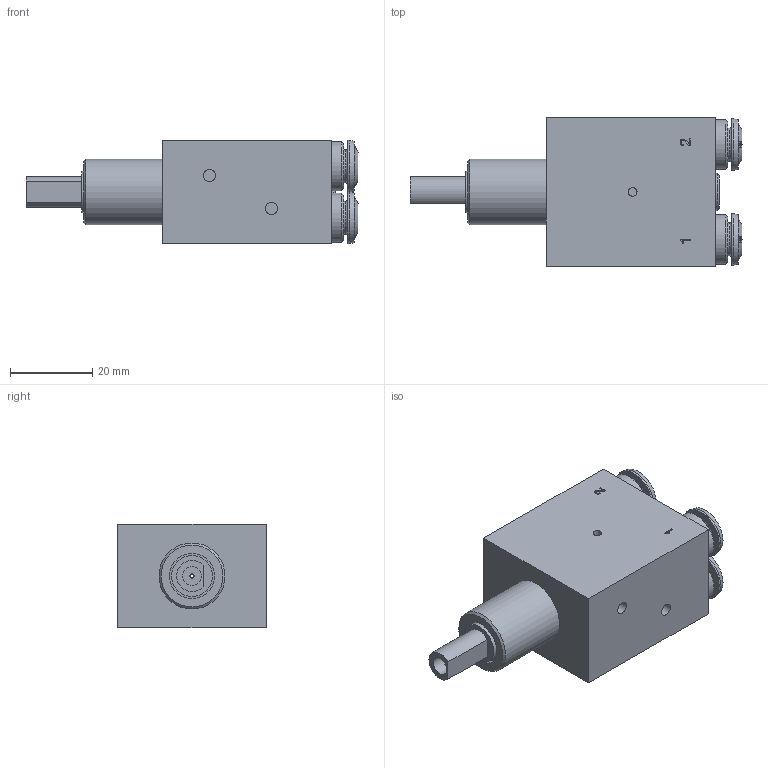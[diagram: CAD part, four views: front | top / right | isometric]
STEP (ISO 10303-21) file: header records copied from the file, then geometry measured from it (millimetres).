
FILE_DESCRIPTION( ( 'Unknown' ), '1' );
FILE_NAME( 'Q:/Solid Edge ST4/weblap modellek/stp/második adag/BHP 320 462.stp', 'Unknown', ( 'Unknown' ), ( 'Unknown' ), 'PSStep 14.0', 'Unknown', ' ' );
FILE_SCHEMA( ( 'AUTOMOTIVE_DESIGN { 1 0 10303 214 1 1 1 1 }' ) );
Length unit declared in the file: millimetre
Products named in the file (10): Assem1; -oa0
Assembly tree (9 placements, depth 2):
  Assem1
    -oa0
    -oa0
    -oa0
    -oa0
    -oa0
    -oa0
    -oa0
    -oa0
    -oa0
Bounding box: 80.5 x 36 x 25 mm (x, y, z)
Surface area: 10517.5 mm2 (no closed solid volume)
Topology: 0 solids, 245 shells, 245 faces, 1246 edges, 1191 vertices
Faces by surface type: bspline 108, plane 56, cone 41, cylinder 26, extrusion 8, torus 6
Full cylindrical faces by diameter (mm): 1 x1, 2.1 x1, 3 x3, 4.5 x1, 6.2 x3, 8 x3, 9 x1, 10 x1, 11 x1, 12 x3, 12.5 x3, 16 x1
Entity records: 28398 total; most frequent: CARTESIAN_POINT 18936, ORIENTED_EDGE 1155, EDGE_CURVE 1155, VERTEX_POINT 1155, B_SPLINE_CURVE_WITH_KNOTS 874, DIRECTION 712, PRESENTATION_STYLE_ASSIGNMENT 400, COLOUR_RGB 400
